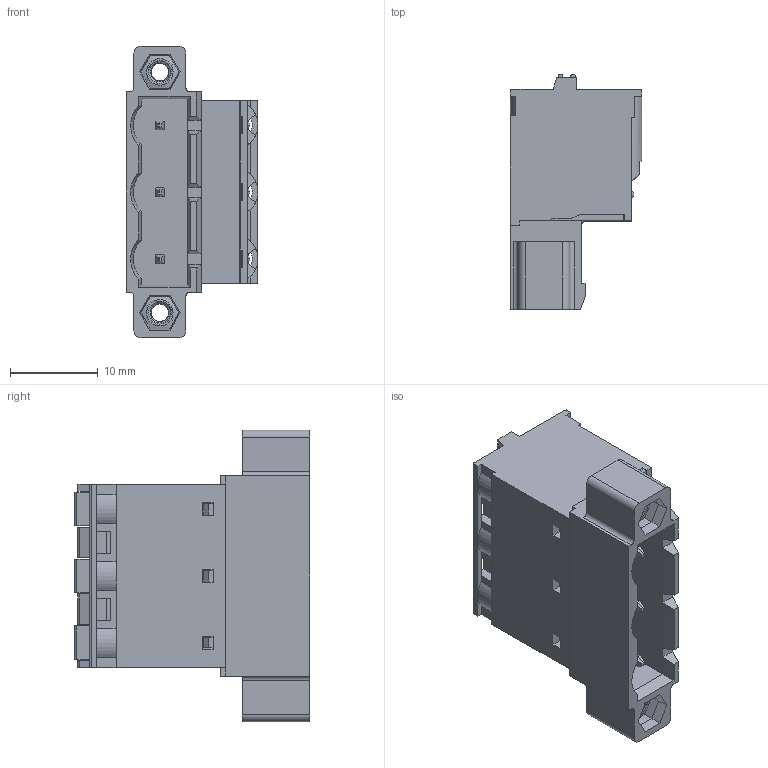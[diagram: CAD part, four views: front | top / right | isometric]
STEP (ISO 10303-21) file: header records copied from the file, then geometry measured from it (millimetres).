
FILE_DESCRIPTION((''),'2;1');
FILE_NAME('3PIN_SW0001','2019-05-29T',('zhenbing.lai'),(''),'CREO PARAMETRIC BY PTC INC, 2016260','CREO PARAMETRIC BY PTC INC, 2016260','');
FILE_SCHEMA(('CONFIG_CONTROL_DESIGN'));
Length unit declared in the file: millimetre
Products named in the file (1): 3PIN_SW0001
Bounding box: 15 x 26.8 x 33.24 mm (x, y, z)
Volume: 5686.4 mm3; surface area: 3823.2 mm2
Topology: 1 solids, 5 shells, 508 faces, 1405 edges, 913 vertices
Faces by surface type: plane 369, cylinder 92, cone 19, bspline 19, sphere 9
Entity records: 23275 total; most frequent: CARTESIAN_POINT 10556, ORIENTED_EDGE 2792, DIRECTION 2372, EDGE_CURVE 1396, VECTOR 1024, LINE 1024, VERTEX_POINT 913, AXIS2_PLACEMENT_3D 674
